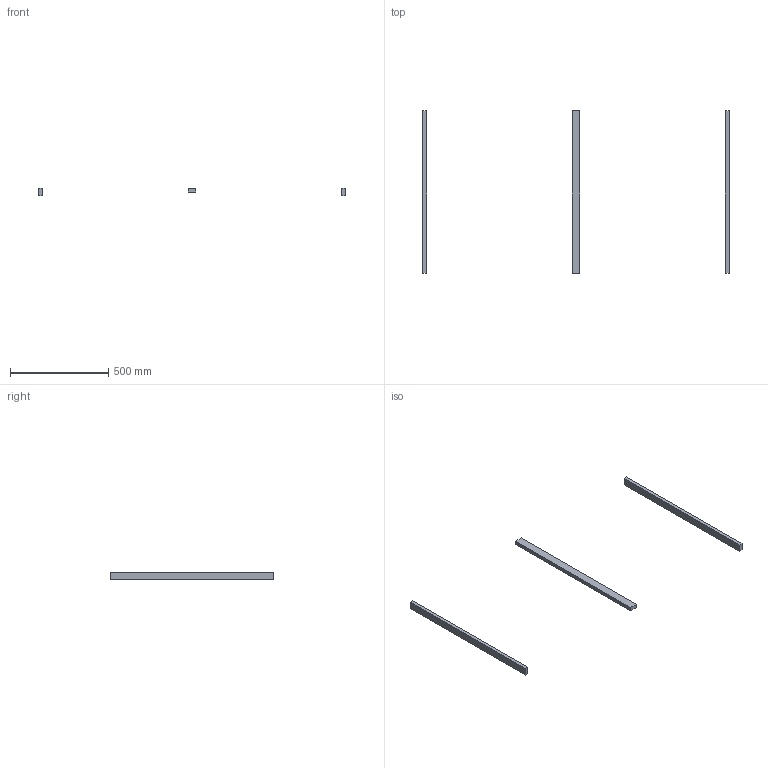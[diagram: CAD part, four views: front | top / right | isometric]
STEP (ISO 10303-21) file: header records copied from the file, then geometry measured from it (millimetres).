
FILE_DESCRIPTION(/* description */ (''),/* implementation_level */ '2;1');
FILE_NAME(/* name */ 'FR2131~1',/* time_stamp */ '2014-02-14T19:35:40+01:00',/* author */ (''),/* organization */ (''),/* preprocessor_version */ 'ST-DEVELOPER v14',/* originating_system */ '',/* authorisation */ '');
FILE_SCHEMA (('AUTOMOTIVE_DESIGN'));
Length unit declared in the file: millimetre
Products named in the file (1): Document
Bounding box: 1564 x 830 x 40 mm (x, y, z)
Volume: 1992000 mm3; surface area: 303600 mm2
Topology: 3 solids, 3 shells, 18 faces, 36 edges, 24 vertices
Faces by surface type: plane 18
Entity records: 844 total; most frequent: CARTESIAN_POINT 260, B_SPLINE_CURVE_WITH_KNOTS 108, ORIENTED_EDGE 72, PCURVE 72, DEFINITIONAL_REPRESENTATION 72, SURFACE_CURVE 36, EDGE_CURVE 36, VERTEX_POINT 24
